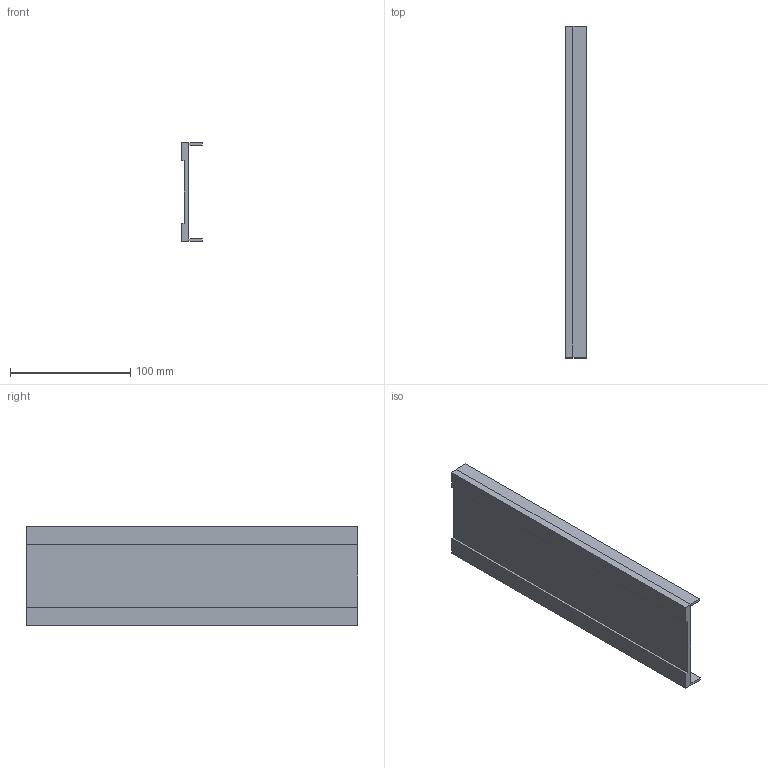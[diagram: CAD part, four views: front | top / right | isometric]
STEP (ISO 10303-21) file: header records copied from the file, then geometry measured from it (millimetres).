
FILE_DESCRIPTION(('FreeCAD Model'),'2;1');
FILE_NAME('/home/bluelambda/Documents/Arcade/meca/marquee.step', '2016-04-03T23:37:03',(''),(''),'Open CASCADE STEP processor 6.9', 'FreeCAD','Unknown');
FILE_SCHEMA(('AUTOMOTIVE_DESIGN_CC2 { 1 2 10303 214 -1 1 5 4 }'));
Length unit declared in the file: millimetre
Products named in the file (1): marquee
Bounding box: 17 x 275.68 x 82 mm (x, y, z)
Volume: 118800 mm3; surface area: 62466.7 mm2
Topology: 1 solids, 1 shells, 21 faces, 50 edges, 31 vertices
Faces by surface type: plane 21
Entity records: 1259 total; most frequent: CARTESIAN_POINT 203, DIRECTION 194, LINE 150, VECTOR 150, ORIENTED_EDGE 100, PCURVE 100, DEFINITIONAL_REPRESENTATION 100, EDGE_CURVE 50
